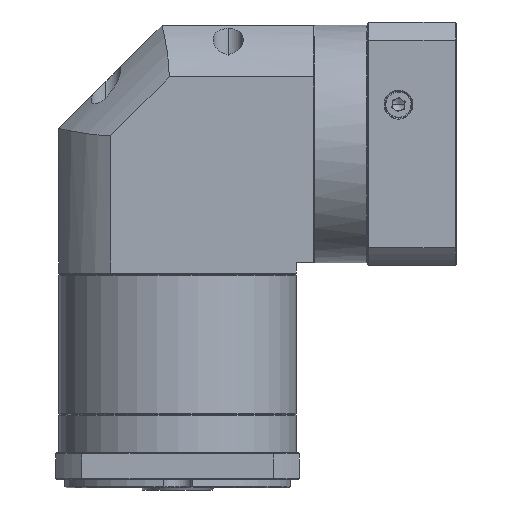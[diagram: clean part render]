
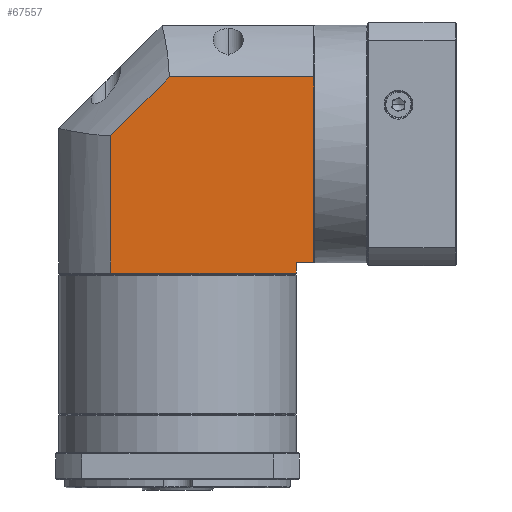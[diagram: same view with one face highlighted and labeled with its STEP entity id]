
A CAD part, front view. The second image highlights one B-rep face of the part: STEP entity #67557.
In plain terms, the highlighted planar face has unit normal (0, -1, 0).
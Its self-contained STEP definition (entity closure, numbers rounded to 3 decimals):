
#2341 = CARTESIAN_POINT ( 'NONE',  ( 127.468, 21.647, 71.122 ) ) ;
#2531 = EDGE_CURVE ( 'NONE', #124324, #123426, #61962, .T. ) ;
#6772 = DIRECTION ( 'NONE',  ( 0., 1., 0. ) ) ;
#7643 = CARTESIAN_POINT ( 'NONE',  ( 4.068, 21.647, -30.278 ) ) ;
#7878 = DIRECTION ( 'NONE',  ( -1., 0., 0. ) ) ;
#9529 = DIRECTION ( 'NONE',  ( 0., 0., 1. ) ) ;
#9634 = EDGE_CURVE ( 'NONE', #31619, #62818, #20866, .T. ) ;
#10252 = DIRECTION ( 'NONE',  ( 1., 0., 0. ) ) ;
#10327 = VECTOR ( 'NONE', #24361, 1000. ) ;
#11853 = VERTEX_POINT ( 'NONE', #107141 ) ;
#12346 = EDGE_LOOP ( 'NONE', ( #100338, #110683, #77037, #91703, #15975, #66609, #115005 ) ) ;
#13880 = CARTESIAN_POINT ( 'NONE',  ( 29.168, 21.647, 42.784 ) ) ;
#15975 = ORIENTED_EDGE ( 'NONE', *, *, #86274, .F. ) ;
#20866 = LINE ( 'NONE', #98186, #22390 ) ;
#22390 = VECTOR ( 'NONE', #10252, 1000. ) ;
#24361 = DIRECTION ( 'NONE',  ( -1., 0., 0. ) ) ;
#28126 = CARTESIAN_POINT ( 'NONE',  ( 4.068, 21.647, -18.778 ) ) ;
#28393 = CARTESIAN_POINT ( 'NONE',  ( 127.468, 21.647, -30.278 ) ) ;
#28496 = VECTOR ( 'NONE', #72006, 1000. ) ;
#31615 = LINE ( 'NONE', #31796, #28496 ) ;
#31619 = VERTEX_POINT ( 'NONE', #52048 ) ;
#31796 = CARTESIAN_POINT ( 'NONE',  ( 119.068, 21.647, -30.278 ) ) ;
#37117 = VECTOR ( 'NONE', #9529, 1000. ) ;
#45040 = CARTESIAN_POINT ( 'NONE',  ( 4.068, 21.647, -23.778 ) ) ;
#45453 = CARTESIAN_POINT ( 'NONE',  ( 119.068, 21.647, -23.778 ) ) ;
#47212 = VECTOR ( 'NONE', #7878, 1000. ) ;
#47384 = VERTEX_POINT ( 'NONE', #122316 ) ;
#48058 = CARTESIAN_POINT ( 'NONE',  ( 29.168, 21.647, 42.784 ) ) ;
#48296 = DIRECTION ( 'NONE',  ( 0., 0., -1. ) ) ;
#52048 = CARTESIAN_POINT ( 'NONE',  ( 57.506, 21.647, 71.122 ) ) ;
#53053 = EDGE_CURVE ( 'NONE', #111788, #124324, #89407, .T. ) ;
#61962 = LINE ( 'NONE', #108302, #37117 ) ;
#62818 = VERTEX_POINT ( 'NONE', #2341 ) ;
#63674 = EDGE_CURVE ( 'NONE', #62818, #47384, #106526, .T. ) ;
#66609 = ORIENTED_EDGE ( 'NONE', *, *, #2531, .F. ) ;
#67518 = DIRECTION ( 'NONE',  ( 0.707, 0., 0.707 ) ) ;
#67557 = ADVANCED_FACE ( 'NONE', ( #115766 ), #126367, .F. ) ;
#72006 = DIRECTION ( 'NONE',  ( 0., 0., -1. ) ) ;
#77037 = ORIENTED_EDGE ( 'NONE', *, *, #63674, .F. ) ;
#80140 = VECTOR ( 'NONE', #48296, 1000. ) ;
#86274 = EDGE_CURVE ( 'NONE', #123426, #31619, #112575, .T. ) ;
#89407 = LINE ( 'NONE', #45040, #10327 ) ;
#91703 = ORIENTED_EDGE ( 'NONE', *, *, #9634, .F. ) ;
#92287 = LINE ( 'NONE', #28126, #47212 ) ;
#92571 = EDGE_CURVE ( 'NONE', #47384, #11853, #92287, .T. ) ;
#96835 = DIRECTION ( 'NONE',  ( 1., 0., 0. ) ) ;
#98186 = CARTESIAN_POINT ( 'NONE',  ( 4.068, 21.647, 71.122 ) ) ;
#100338 = ORIENTED_EDGE ( 'NONE', *, *, #100463, .F. ) ;
#100463 = EDGE_CURVE ( 'NONE', #11853, #111788, #31615, .T. ) ;
#103223 = VECTOR ( 'NONE', #67518, 1000. ) ;
#106526 = LINE ( 'NONE', #28393, #80140 ) ;
#107141 = CARTESIAN_POINT ( 'NONE',  ( 119.068, 21.647, -18.778 ) ) ;
#108302 = CARTESIAN_POINT ( 'NONE',  ( 29.168, 21.647, -30.278 ) ) ;
#110683 = ORIENTED_EDGE ( 'NONE', *, *, #92571, .F. ) ;
#111788 = VERTEX_POINT ( 'NONE', #45453 ) ;
#112575 = LINE ( 'NONE', #48058, #103223 ) ;
#113266 = AXIS2_PLACEMENT_3D ( 'NONE', #7643, #6772, #96835 ) ;
#115005 = ORIENTED_EDGE ( 'NONE', *, *, #53053, .F. ) ;
#115766 = FACE_OUTER_BOUND ( 'NONE', #12346, .T. ) ;
#122316 = CARTESIAN_POINT ( 'NONE',  ( 127.468, 21.647, -18.778 ) ) ;
#123426 = VERTEX_POINT ( 'NONE', #13880 ) ;
#124324 = VERTEX_POINT ( 'NONE', #125144 ) ;
#125144 = CARTESIAN_POINT ( 'NONE',  ( 29.168, 21.647, -23.778 ) ) ;
#126367 = PLANE ( 'NONE',  #113266 ) ;
